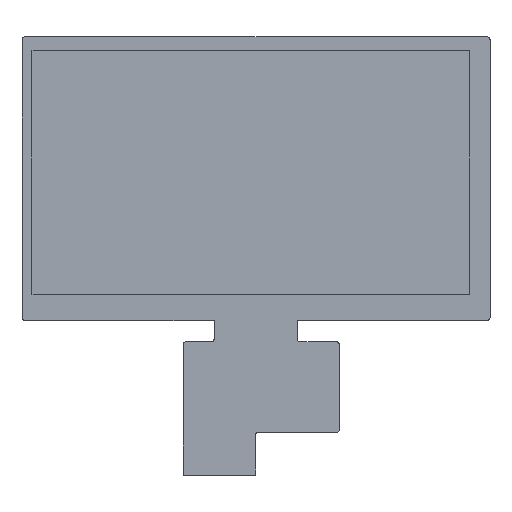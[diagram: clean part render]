
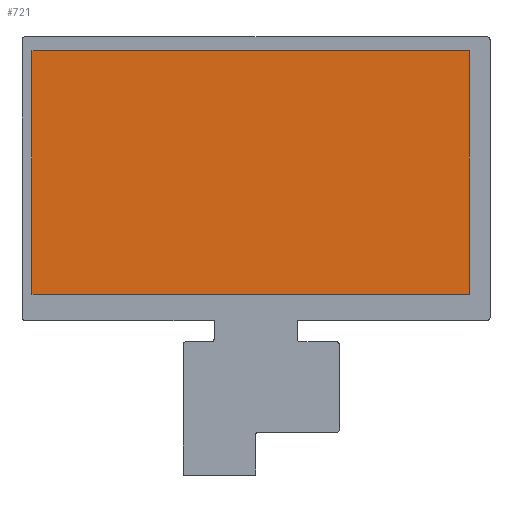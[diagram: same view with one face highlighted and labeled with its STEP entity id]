
A CAD part, top view. The second image highlights one B-rep face of the part: STEP entity #721.
In plain terms, the highlighted planar face has unit normal (0, 0, 1).
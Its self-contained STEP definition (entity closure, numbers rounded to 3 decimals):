
#258=DIRECTION('',(0.,-1.,0.));
#259=VECTOR('',#258,85.92);
#260=CARTESIAN_POINT('',(4834.741,-2180.145,-0.1));
#261=LINE('',#260,#259);
#262=DIRECTION('',(-1.,0.,0.));
#263=VECTOR('',#262,154.214);
#264=CARTESIAN_POINT('',(4988.955,-2180.145,-0.1));
#265=LINE('',#264,#263);
#266=DIRECTION('',(0.,1.,0.));
#267=VECTOR('',#266,85.92);
#268=CARTESIAN_POINT('',(4988.955,-2266.065,-0.1));
#269=LINE('',#268,#267);
#270=DIRECTION('',(1.,0.,0.));
#271=VECTOR('',#270,154.214);
#272=CARTESIAN_POINT('',(4834.741,-2266.065,-0.1));
#273=LINE('',#272,#271);
#508=CARTESIAN_POINT('',(4834.741,-2180.145,-0.1));
#509=CARTESIAN_POINT('',(4834.741,-2266.065,-0.1));
#510=VERTEX_POINT('',#508);
#511=VERTEX_POINT('',#509);
#512=CARTESIAN_POINT('',(4988.955,-2266.065,-0.1));
#513=VERTEX_POINT('',#512);
#514=CARTESIAN_POINT('',(4988.955,-2180.145,-0.1));
#515=VERTEX_POINT('',#514);
#710=CARTESIAN_POINT('',(4832.215,-2275.28,-0.1));
#711=DIRECTION('',(0.,0.,1.));
#712=DIRECTION('',(1.,0.,0.));
#713=AXIS2_PLACEMENT_3D('',#710,#711,#712);
#714=PLANE('',#713);
#715=ORIENTED_EDGE('',*,*,#662,.F.);
#716=ORIENTED_EDGE('',*,*,#677,.F.);
#717=ORIENTED_EDGE('',*,*,#691,.F.);
#718=ORIENTED_EDGE('',*,*,#704,.F.);
#719=EDGE_LOOP('',(#715,#716,#717,#718));
#720=FACE_OUTER_BOUND('',#719,.F.);
#662=EDGE_CURVE('',#510,#511,#261,.T.);
#677=EDGE_CURVE('',#515,#510,#265,.T.);
#691=EDGE_CURVE('',#513,#515,#269,.T.);
#704=EDGE_CURVE('',#511,#513,#273,.T.);
#721=ADVANCED_FACE('',(#720),#714,.T.);
